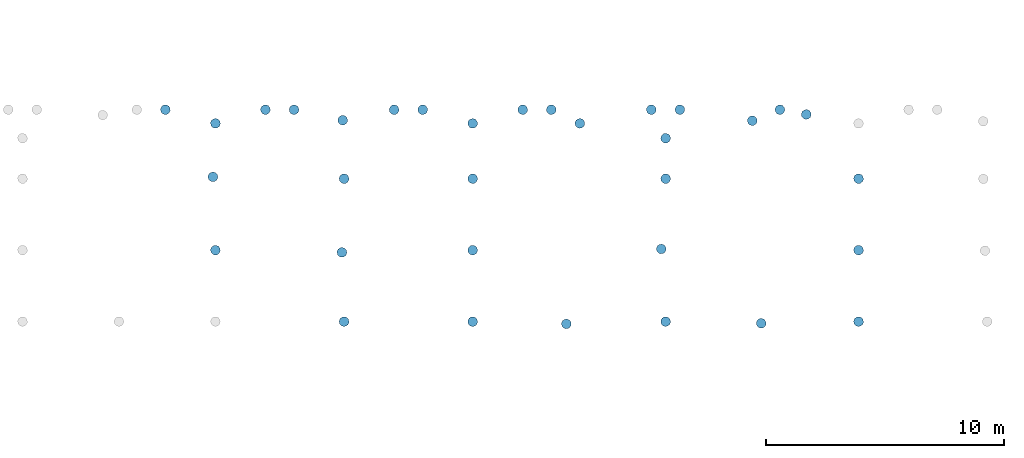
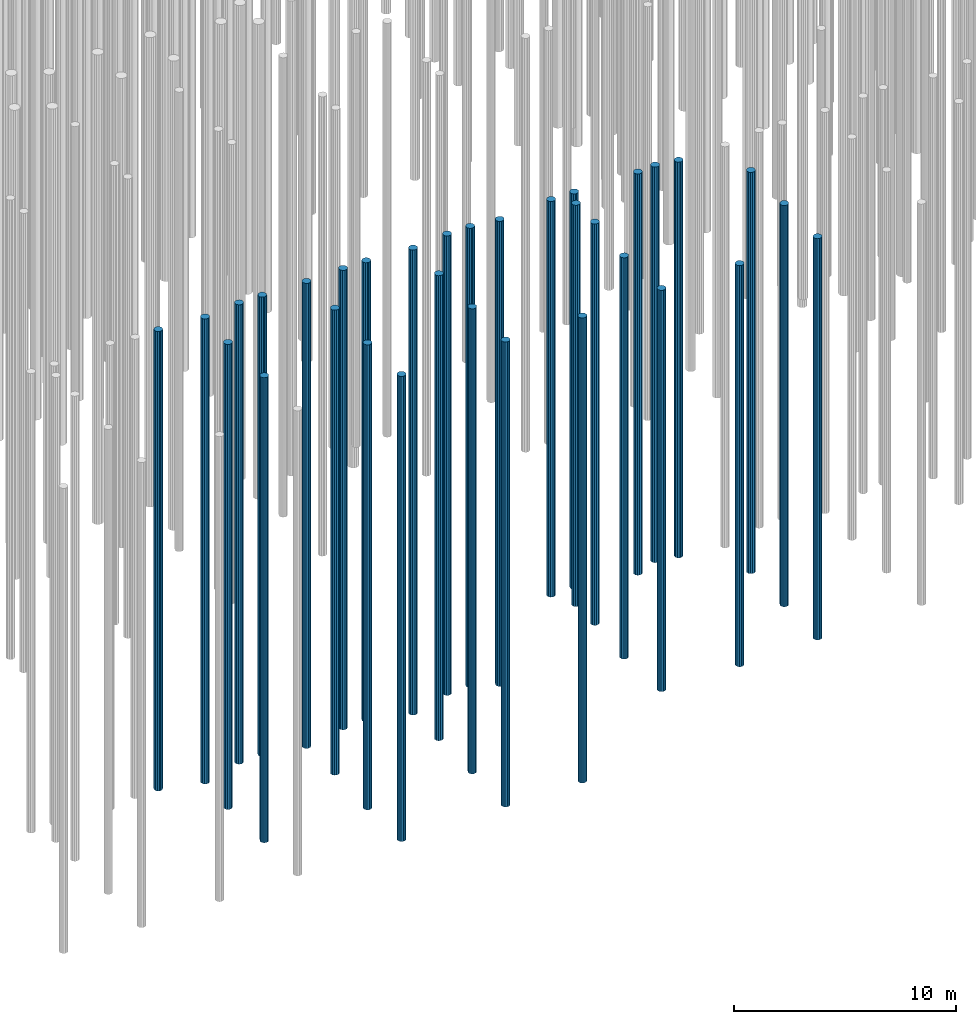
# One storey, part 3 of 20: 33 piles.
"""IFC2X3 building model written with IfcOpenShell, lengths in millimetres."""

from ifc_helpers import new_model, entity, si_unit, converted_unit, derived_unit, direction, frame, origin, place, context, subcontext, project, spatial, polyline, outline, extrude, material, element, save


model = new_model("IFC2X3")

# Units and contexts
model_context = context("Model", 3, precision=0.01, world=origin(), true_north=direction((6.12303176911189e-17, 1.0)))
body_context = subcontext(model_context, "Body", "Model", "MODEL_VIEW")
ifc_project = project(units=[si_unit("LENGTHUNIT", "METRE", prefix="MILLI"), si_unit("AREAUNIT", "SQUARE_METRE"), si_unit("VOLUMEUNIT", "CUBIC_METRE"), converted_unit("PLANEANGLEUNIT", "DEGREE", entity("IfcRatioMeasure", 0.0174532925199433), si_unit("PLANEANGLEUNIT", "RADIAN"), dimensions=[0, 0, 0, 0, 0, 0, 0]), si_unit("MASSUNIT", "GRAM", prefix="KILO"), derived_unit("MASSDENSITYUNIT", [(si_unit("MASSUNIT", "GRAM", prefix="KILO"), 1), (si_unit("LENGTHUNIT", "METRE"), -3)]), si_unit("TIMEUNIT", "SECOND"), si_unit("FREQUENCYUNIT", "HERTZ"), si_unit("THERMODYNAMICTEMPERATUREUNIT", "DEGREE_CELSIUS"), derived_unit("THERMALTRANSMITTANCEUNIT", [(si_unit("MASSUNIT", "GRAM", prefix="KILO"), 1), (si_unit("THERMODYNAMICTEMPERATUREUNIT", "KELVIN"), -1), (si_unit("TIMEUNIT", "SECOND"), -3)]), derived_unit("VOLUMETRICFLOWRATEUNIT", [(si_unit("LENGTHUNIT", "METRE"), 3), (si_unit("TIMEUNIT", "SECOND"), -1)]), si_unit("ELECTRICCURRENTUNIT", "AMPERE"), si_unit("ELECTRICVOLTAGEUNIT", "VOLT"), si_unit("POWERUNIT", "WATT"), si_unit("FORCEUNIT", "NEWTON", prefix="KILO"), si_unit("ILLUMINANCEUNIT", "LUX"), si_unit("LUMINOUSFLUXUNIT", "LUMEN"), si_unit("LUMINOUSINTENSITYUNIT", "CANDELA"), derived_unit("USERDEFINED", [(si_unit("MASSUNIT", "GRAM", prefix="KILO"), -1), (si_unit("LENGTHUNIT", "METRE"), -2), (si_unit("TIMEUNIT", "SECOND"), 3), (si_unit("LUMINOUSFLUXUNIT", "LUMEN"), 1)]), derived_unit("LINEARVELOCITYUNIT", [(si_unit("LENGTHUNIT", "METRE"), 1), (si_unit("TIMEUNIT", "SECOND"), -1)]), si_unit("PRESSUREUNIT", "PASCAL"), derived_unit("USERDEFINED", [(si_unit("LENGTHUNIT", "METRE"), -2), (si_unit("MASSUNIT", "GRAM", prefix="KILO"), 1), (si_unit("TIMEUNIT", "SECOND"), -2)])], contexts=[model_context])

# Site, building, storey
site_placement = place(None, origin())
site = spatial("IfcSite", under=ifc_project, at=site_placement, Name="Default", CompositionType="ELEMENT")
building_placement = place(site_placement, origin())
building = spatial("IfcBuilding", under=site, at=building_placement, Name="niet gebruiken", CompositionType="ELEMENT")
storey_placement = place(building_placement, frame((0.0, 0.0, -4000.0)))
storey = spatial("IfcBuildingStorey", under=building, at=storey_placement, Name="Level t.b.v. palenplan", CompositionType="ELEMENT", Elevation=-4000.0)

# Piles
ifc_material = material(Name="NLRS_f2_beton ihwg")
pile_1_placement = place(storey_placement, origin())
element("IfcPile", 1, at=pile_1_placement, inside=storey, material=ifc_material, Name="NLRS_17.12_SFO_TLB_funderingspaal grondverdringend_gen:Fundex_r410/500", ObjectType="NLRS_17.12_SFO_TLB_funderingspaal grondverdringend_gen:Fundex_r410/500", context=body_context, shape_type="SweptSolid", body=[
    extrude(outline(polyline([(-49.0597111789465, -199.043072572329), (49.0597111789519, -199.043072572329), (135.940144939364, -153.44470337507), (191.678329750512, -72.6940018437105), (203.505319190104, 24.7100194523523), (168.711692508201, 116.453273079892), (95.2682502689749, 181.518485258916), (49.0597111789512, 199.043072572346), (-49.0597111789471, 199.043072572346), (-135.94014493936, 153.444703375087), (-191.678329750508, 72.6940018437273), (-203.5053191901, -24.7100194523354), (-168.711692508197, -116.453273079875), (-95.2682502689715, -181.518485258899), (-49.0597111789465, -199.043072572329)])), frame((40500.0, 300.0, -22600.0), z_axis=(0.0, 0.0, 1.0), x_axis=(0.239315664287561, -0.970941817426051, 0.0)), (0.0, 0.0, 1.0), 25528.0),
])
pile_2_placement = place(storey_placement, origin())
element("IfcPile", 2, at=pile_2_placement, inside=storey, material=ifc_material, Name="NLRS_17.12_SFO_TLB_funderingspaal grondverdringend_gen:Fundex_r410/500", ObjectType="NLRS_17.12_SFO_TLB_funderingspaal grondverdringend_gen:Fundex_r410/500", context=body_context, shape_type="SweptSolid", body=[
    extrude(outline(polyline([(-49.0597111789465, -199.043072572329), (49.0597111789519, -199.043072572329), (135.940144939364, -153.44470337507), (191.678329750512, -72.6940018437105), (203.505319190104, 24.7100194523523), (168.711692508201, 116.453273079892), (95.2682502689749, 181.518485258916), (49.0597111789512, 199.043072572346), (-49.0597111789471, 199.043072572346), (-135.94014493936, 153.444703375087), (-191.678329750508, 72.6940018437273), (-203.5053191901, -24.7100194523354), (-168.711692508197, -116.453273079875), (-95.2682502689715, -181.518485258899), (-49.0597111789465, -199.043072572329)])), frame((45900.0, 300.0, -22600.0), z_axis=(0.0, 0.0, 1.0), x_axis=(0.239315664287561, -0.970941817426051, 0.0)), (0.0, 0.0, 1.0), 25528.0),
])
pile_3_placement = place(storey_placement, origin())
element("IfcPile", 3, at=pile_3_placement, inside=storey, material=ifc_material, Name="NLRS_17.12_SFO_TLB_funderingspaal grondverdringend_gen:Fundex_r410/500", ObjectType="NLRS_17.12_SFO_TLB_funderingspaal grondverdringend_gen:Fundex_r410/500", context=body_context, shape_type="SweptSolid", body=[
    extrude(outline(polyline([(-49.0597111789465, -199.043072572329), (49.0597111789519, -199.043072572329), (135.940144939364, -153.44470337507), (191.678329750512, -72.6940018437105), (203.505319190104, 24.7100194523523), (168.711692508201, 116.453273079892), (95.268250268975, 181.518485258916), (49.0597111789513, 199.043072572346), (-49.0597111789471, 199.043072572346), (-135.94014493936, 153.444703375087), (-191.678329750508, 72.6940018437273), (-203.5053191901, -24.7100194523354), (-168.711692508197, -116.453273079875), (-95.2682502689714, -181.518485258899), (-49.0597111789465, -199.043072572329)])), frame((49833.0599688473, 203.253374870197, -22600.0), z_axis=(0.0, 0.0, 1.0), x_axis=(0.239315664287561, -0.970941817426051, 0.0)), (0.0, 0.0, 1.0), 25528.0),
])
pile_4_placement = place(storey_placement, origin())
element("IfcPile", 4, at=pile_4_placement, inside=storey, material=ifc_material, Name="NLRS_17.12_SFO_TLB_funderingspaal grondverdringend_gen:Fundex_r410/500", ObjectType="NLRS_17.12_SFO_TLB_funderingspaal grondverdringend_gen:Fundex_r410/500", context=body_context, shape_type="SweptSolid", body=[
    extrude(outline(polyline([(-49.0597111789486, -199.043072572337), (49.0597111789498, -199.043072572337), (135.940144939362, -153.444703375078), (191.67832975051, -72.6940018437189), (203.505319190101, 24.7100194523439), (168.711692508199, 116.453273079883), (95.2682502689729, 181.518485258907), (49.0597111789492, 199.043072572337), (-49.0597111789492, 199.043072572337), (-135.940144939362, 153.444703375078), (-191.67832975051, 72.6940018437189), (-203.505319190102, -24.7100194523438), (-168.711692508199, -116.453273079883), (-95.2682502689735, -181.518485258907), (-49.0597111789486, -199.043072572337)])), frame((54000.0, 300.0, -19100.0), z_axis=(0.0, 0.0, 1.0), x_axis=(0.239315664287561, -0.970941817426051, 0.0)), (0.0, 0.0, 1.0), 22028.0),
])
pile_5_placement = place(storey_placement, origin())
element("IfcPile", 5, at=pile_5_placement, inside=storey, material=ifc_material, Name="NLRS_17.12_SFO_TLB_funderingspaal grondverdringend_gen:Fundex_r410/500", ObjectType="NLRS_17.12_SFO_TLB_funderingspaal grondverdringend_gen:Fundex_r410/500", context=body_context, shape_type="SweptSolid", body=[
    extrude(outline(polyline([(-49.0597111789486, -199.043072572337), (49.0597111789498, -199.043072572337), (135.940144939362, -153.444703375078), (191.67832975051, -72.6940018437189), (203.505319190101, 24.7100194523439), (168.711692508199, 116.453273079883), (95.2682502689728, 181.518485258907), (49.0597111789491, 199.043072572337), (-49.0597111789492, 199.043072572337), (-135.940144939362, 153.444703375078), (-191.67832975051, 72.6940018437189), (-203.505319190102, -24.7100194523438), (-168.711692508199, -116.453273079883), (-95.2682502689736, -181.518485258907), (-49.0597111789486, -199.043072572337)])), frame((58011.9148747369, 228.351087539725, -19100.0), z_axis=(0.0, 0.0, 1.0), x_axis=(0.239315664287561, -0.970941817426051, 0.0)), (0.0, 0.0, 1.0), 22028.0),
])
pile_6_placement = place(storey_placement, origin())
element("IfcPile", 6, at=pile_6_placement, inside=storey, material=ifc_material, Name="NLRS_17.12_SFO_TLB_funderingspaal grondverdringend_gen:Fundex_r410/500", ObjectType="NLRS_17.12_SFO_TLB_funderingspaal grondverdringend_gen:Fundex_r410/500", context=body_context, shape_type="SweptSolid", body=[
    extrude(outline(polyline([(-49.0597111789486, -199.043072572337), (49.0597111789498, -199.043072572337), (135.940144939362, -153.444703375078), (191.67832975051, -72.6940018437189), (203.505319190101, 24.7100194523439), (168.711692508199, 116.453273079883), (95.2682502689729, 181.518485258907), (49.0597111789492, 199.043072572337), (-49.0597111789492, 199.043072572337), (-135.940144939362, 153.444703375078), (-191.67832975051, 72.6940018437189), (-203.505319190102, -24.7100194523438), (-168.711692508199, -116.453273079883), (-95.2682502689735, -181.518485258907), (-49.0597111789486, -199.043072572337)])), frame((62100.0, 300.0, -19100.0), z_axis=(0.0, 0.0, 1.0), x_axis=(0.239315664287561, -0.970941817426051, 0.0)), (0.0, 0.0, 1.0), 22028.0),
])
pile_7_placement = place(storey_placement, origin())
element("IfcPile", 7, at=pile_7_placement, inside=storey, material=ifc_material, Name="NLRS_17.12_SFO_TLB_funderingspaal grondverdringend_gen:Fundex_r410/500", ObjectType="NLRS_17.12_SFO_TLB_funderingspaal grondverdringend_gen:Fundex_r410/500", context=body_context, shape_type="SweptSolid", body=[
    extrude(outline(polyline([(-49.0597111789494, -199.043072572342), (49.0597111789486, -199.043072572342), (135.940144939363, -153.444703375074), (191.67832975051, -72.6940018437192), (203.505319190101, 24.7100194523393), (168.711692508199, 116.453273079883), (95.2682502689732, 181.518485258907), (49.0597111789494, 199.043072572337), (-49.059711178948, 199.043072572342), (-135.940144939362, 153.444703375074), (-191.678329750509, 72.694001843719), (-203.505319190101, -24.7100194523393), (-168.7116925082, -116.453273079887), (-95.2682502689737, -181.518485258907), (-49.0597111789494, -199.043072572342)])), frame((35100.0, 3300.0, -22600.0), z_axis=(0.0, 0.0, 1.0), x_axis=(0.239315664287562, -0.970941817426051, 0.0)), (0.0, 0.0, 1.0), 25528.0),
])
pile_8_placement = place(storey_placement, origin())
element("IfcPile", 8, at=pile_8_placement, inside=storey, material=ifc_material, Name="NLRS_17.12_SFO_TLB_funderingspaal grondverdringend_gen:Fundex_r410/500", ObjectType="NLRS_17.12_SFO_TLB_funderingspaal grondverdringend_gen:Fundex_r410/500", context=body_context, shape_type="SweptSolid", body=[
    extrude(outline(polyline([(-49.0597111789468, -199.043072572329), (49.0597111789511, -199.043072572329), (135.940144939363, -153.44470337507), (191.678329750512, -72.6940018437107), (203.505319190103, 24.7100194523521), (168.711692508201, 116.453273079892), (95.2682502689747, 181.518485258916), (49.059711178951, 199.043072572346), (-49.0597111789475, 199.043072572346), (-135.94014493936, 153.444703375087), (-191.678329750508, 72.6940018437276), (-203.5053191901, -24.7100194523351), (-168.711692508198, -116.453273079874), (-95.2682502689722, -181.518485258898), (-49.0597111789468, -199.043072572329)])), frame((40411.6226067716, 3207.38064960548, -22600.0), z_axis=(0.0, 0.0, 1.0), x_axis=(0.239315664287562, -0.970941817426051, 0.0)), (0.0, 0.0, 1.0), 25528.0),
])
pile_9_placement = place(storey_placement, origin())
element("IfcPile", 9, at=pile_9_placement, inside=storey, material=ifc_material, Name="NLRS_17.12_SFO_TLB_funderingspaal grondverdringend_gen:Fundex_r410/500", ObjectType="NLRS_17.12_SFO_TLB_funderingspaal grondverdringend_gen:Fundex_r410/500", context=body_context, shape_type="SweptSolid", body=[
    extrude(outline(polyline([(-49.0597111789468, -199.043072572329), (49.0597111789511, -199.043072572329), (135.940144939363, -153.44470337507), (191.678329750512, -72.6940018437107), (203.505319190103, 24.7100194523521), (168.711692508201, 116.453273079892), (95.2682502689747, 181.518485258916), (49.059711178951, 199.043072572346), (-49.0597111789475, 199.043072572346), (-135.94014493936, 153.444703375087), (-191.678329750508, 72.6940018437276), (-203.5053191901, -24.7100194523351), (-168.711692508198, -116.453273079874), (-95.2682502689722, -181.518485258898), (-49.0597111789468, -199.043072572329)])), frame((45900.0, 3300.0, -22600.0), z_axis=(0.0, 0.0, 1.0), x_axis=(0.239315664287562, -0.970941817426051, 0.0)), (0.0, 0.0, 1.0), 25528.0),
])
pile_10_placement = place(storey_placement, origin())
element("IfcPile", 10, at=pile_10_placement, inside=storey, material=ifc_material, Name="NLRS_17.12_SFO_TLB_funderingspaal grondverdringend_gen:Fundex_r410/500", ObjectType="NLRS_17.12_SFO_TLB_funderingspaal grondverdringend_gen:Fundex_r410/500", context=body_context, shape_type="SweptSolid", body=[
    extrude(outline(polyline([(-49.0597111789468, -199.043072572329), (49.0597111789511, -199.043072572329), (135.940144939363, -153.44470337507), (191.678329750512, -72.6940018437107), (203.505319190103, 24.7100194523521), (168.711692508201, 116.453273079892), (95.2682502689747, 181.518485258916), (49.059711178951, 199.043072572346), (-49.0597111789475, 199.043072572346), (-135.94014493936, 153.444703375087), (-191.678329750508, 72.6940018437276), (-203.5053191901, -24.7100194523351), (-168.711692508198, -116.453273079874), (-95.2682502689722, -181.518485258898), (-49.0597111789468, -199.043072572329)])), frame((53816.9340900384, 3349.68818353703, -19100.0), z_axis=(0.0, 0.0, 1.0), x_axis=(0.239315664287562, -0.970941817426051, 0.0)), (0.0, 0.0, 1.0), 22028.0),
])
pile_11_placement = place(storey_placement, origin())
element("IfcPile", 11, at=pile_11_placement, inside=storey, material=ifc_material, Name="NLRS_17.12_SFO_TLB_funderingspaal grondverdringend_gen:Fundex_r410/500", ObjectType="NLRS_17.12_SFO_TLB_funderingspaal grondverdringend_gen:Fundex_r410/500", context=body_context, shape_type="SweptSolid", body=[
    extrude(outline(polyline([(-49.0597111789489, -199.043072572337), (49.0597111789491, -199.043072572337), (135.940144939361, -153.444703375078), (191.678329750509, -72.6940018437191), (203.505319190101, 24.7100194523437), (168.711692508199, 116.453273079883), (95.2682502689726, 181.518485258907), (49.0597111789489, 199.043072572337), (-49.0597111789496, 199.043072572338), (-135.940144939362, 153.444703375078), (-191.67832975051, 72.6940018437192), (-203.505319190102, -24.7100194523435), (-168.7116925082, -116.453273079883), (-95.2682502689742, -181.518485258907), (-49.0597111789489, -199.043072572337)])), frame((62100.0, 3300.0, -19100.0), z_axis=(0.0, 0.0, 1.0), x_axis=(0.239315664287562, -0.970941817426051, 0.0)), (0.0, 0.0, 1.0), 22028.0),
])
pile_12_placement = place(storey_placement, origin())
element("IfcPile", 12, at=pile_12_placement, inside=storey, material=ifc_material, Name="NLRS_17.12_SFO_TLB_funderingspaal grondverdringend_gen:Fundex_r410/500", ObjectType="NLRS_17.12_SFO_TLB_funderingspaal grondverdringend_gen:Fundex_r410/500", context=body_context, shape_type="SweptSolid", body=[
    extrude(outline(polyline([(-49.0597111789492, -199.043072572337), (49.0597111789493, -199.043072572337), (135.940144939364, -153.44470337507), (191.67832975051, -72.6940018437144), (203.5053191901, 24.7100194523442), (168.711692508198, 116.453273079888), (95.2682502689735, 181.518485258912), (49.0597111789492, 199.043072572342), (-49.0597111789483, 199.043072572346), (-135.940144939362, 153.444703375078), (-191.67832975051, 72.6940018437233), (-203.5053191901, -24.7100194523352), (-168.7116925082, -116.453273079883), (-95.2682502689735, -181.518485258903), (-49.0597111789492, -199.043072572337)])), frame((34994.2892572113, 6374.7398196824, -22600.0), z_axis=(0.0, 0.0, 1.0), x_axis=(0.239315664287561, -0.970941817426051, 0.0)), (0.0, 0.0, 1.0), 25528.0),
])
pile_13_placement = place(storey_placement, origin())
element("IfcPile", 13, at=pile_13_placement, inside=storey, material=ifc_material, Name="NLRS_17.12_SFO_TLB_funderingspaal grondverdringend_gen:Fundex_r410/500", ObjectType="NLRS_17.12_SFO_TLB_funderingspaal grondverdringend_gen:Fundex_r410/500", context=body_context, shape_type="SweptSolid", body=[
    extrude(outline(polyline([(-49.0597111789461, -199.043072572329), (49.0597111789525, -199.043072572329), (135.940144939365, -153.44470337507), (191.678329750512, -72.6940018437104), (203.505319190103, 24.7100194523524), (168.7116925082, 116.453273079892), (95.2682502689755, 181.518485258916), (49.0597111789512, 199.043072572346), (-49.0597111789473, 199.043072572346), (-135.940144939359, 153.444703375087), (-191.678329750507, 72.6940018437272), (-203.505319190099, -24.7100194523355), (-168.711692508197, -116.453273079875), (-95.2682502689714, -181.518485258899), (-49.0597111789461, -199.043072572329)])), frame((40500.0, 6300.0, -22600.0), z_axis=(0.0, 0.0, 1.0), x_axis=(0.239315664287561, -0.970941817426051, 0.0)), (0.0, 0.0, 1.0), 25528.0),
])
pile_14_placement = place(storey_placement, origin())
element("IfcPile", 14, at=pile_14_placement, inside=storey, material=ifc_material, Name="NLRS_17.12_SFO_TLB_funderingspaal grondverdringend_gen:Fundex_r410/500", ObjectType="NLRS_17.12_SFO_TLB_funderingspaal grondverdringend_gen:Fundex_r410/500", context=body_context, shape_type="SweptSolid", body=[
    extrude(outline(polyline([(-49.0597111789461, -199.043072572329), (49.0597111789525, -199.043072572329), (135.940144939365, -153.44470337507), (191.678329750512, -72.6940018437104), (203.505319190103, 24.7100194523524), (168.7116925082, 116.453273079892), (95.2682502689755, 181.518485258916), (49.0597111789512, 199.043072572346), (-49.0597111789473, 199.043072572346), (-135.940144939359, 153.444703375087), (-191.678329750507, 72.6940018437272), (-203.505319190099, -24.7100194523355), (-168.711692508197, -116.453273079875), (-95.2682502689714, -181.518485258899), (-49.0597111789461, -199.043072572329)])), frame((45900.0, 6300.0, -22600.0), z_axis=(0.0, 0.0, 1.0), x_axis=(0.239315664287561, -0.970941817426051, 0.0)), (0.0, 0.0, 1.0), 25528.0),
])
pile_15_placement = place(storey_placement, origin())
element("IfcPile", 15, at=pile_15_placement, inside=storey, material=ifc_material, Name="NLRS_17.12_SFO_TLB_funderingspaal grondverdringend_gen:Fundex_r410/500", ObjectType="NLRS_17.12_SFO_TLB_funderingspaal grondverdringend_gen:Fundex_r410/500", context=body_context, shape_type="SweptSolid", body=[
    extrude(outline(polyline([(-49.0597111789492, -199.043072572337), (49.0597111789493, -199.043072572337), (135.940144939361, -153.444703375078), (191.678329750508, -72.6940018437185), (203.5053191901, 24.7100194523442), (168.711692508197, 116.453273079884), (95.2682502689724, 181.518485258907), (49.0597111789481, 199.043072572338), (-49.0597111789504, 199.043072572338), (-135.940144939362, 153.444703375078), (-191.678329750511, 72.6940018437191), (-203.505319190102, -24.7100194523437), (-168.7116925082, -116.453273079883), (-95.2682502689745, -181.518485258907), (-49.0597111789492, -199.043072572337)])), frame((54000.0, 6300.0, -19100.0), z_axis=(0.0, 0.0, 1.0), x_axis=(0.239315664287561, -0.970941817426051, 0.0)), (0.0, 0.0, 1.0), 22028.0),
])
pile_16_placement = place(storey_placement, origin())
element("IfcPile", 16, at=pile_16_placement, inside=storey, material=ifc_material, Name="NLRS_17.12_SFO_TLB_funderingspaal grondverdringend_gen:Fundex_r410/500", ObjectType="NLRS_17.12_SFO_TLB_funderingspaal grondverdringend_gen:Fundex_r410/500", context=body_context, shape_type="SweptSolid", body=[
    extrude(outline(polyline([(-49.0597111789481, -199.043072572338), (49.0597111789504, -199.043072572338), (135.940144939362, -153.444703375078), (191.67832975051, -72.6940018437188), (203.505319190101, 24.7100194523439), (168.711692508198, 116.453273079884), (95.2682502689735, 181.518485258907), (49.0597111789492, 199.043072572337), (-49.0597111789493, 199.043072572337), (-135.940144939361, 153.444703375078), (-191.67832975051, 72.6940018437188), (-203.505319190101, -24.7100194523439), (-168.711692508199, -116.453273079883), (-95.2682502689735, -181.518485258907), (-49.0597111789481, -199.043072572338)])), frame((62100.0, 6300.0, -19100.0), z_axis=(0.0, 0.0, 1.0), x_axis=(0.239315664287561, -0.970941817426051, 0.0)), (0.0, 0.0, 1.0), 22028.0),
])
pile_17_placement = place(storey_placement, origin())
element("IfcPile", 17, at=pile_17_placement, inside=storey, material=ifc_material, Name="NLRS_17.12_SFO_TLB_funderingspaal grondverdringend_gen:Fundex_r410/500", ObjectType="NLRS_17.12_SFO_TLB_funderingspaal grondverdringend_gen:Fundex_r410/500", context=body_context, shape_type="SweptSolid", body=[
    extrude(outline(polyline([(-49.0597111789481, -199.043072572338), (49.0597111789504, -199.043072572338), (135.940144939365, -153.44470337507), (191.678329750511, -72.6940018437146), (203.505319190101, 24.7100194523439), (168.711692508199, 116.453273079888), (95.2682502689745, 181.518485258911), (49.0597111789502, 199.043072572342), (-49.0597111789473, 199.043072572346), (-135.940144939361, 153.444703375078), (-191.678329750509, 72.694001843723), (-203.505319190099, -24.7100194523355), (-168.711692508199, -116.453273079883), (-95.2682502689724, -181.518485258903), (-49.0597111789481, -199.043072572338)])), frame((35100.0, 8621.0, -22600.0), z_axis=(0.0, 0.0, 1.0), x_axis=(0.239315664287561, -0.970941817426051, 0.0)), (0.0, 0.0, 1.0), 25528.0),
])
pile_18_placement = place(storey_placement, origin())
element("IfcPile", 18, at=pile_18_placement, inside=storey, material=ifc_material, Name="NLRS_17.12_SFO_TLB_funderingspaal grondverdringend_gen:Fundex_r410/500", ObjectType="NLRS_17.12_SFO_TLB_funderingspaal grondverdringend_gen:Fundex_r410/500", context=body_context, shape_type="SweptSolid", body=[
    extrude(outline(polyline([(-49.0597111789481, -199.043072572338), (49.0597111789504, -199.043072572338), (135.940144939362, -153.444703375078), (191.67832975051, -72.6940018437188), (203.505319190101, 24.7100194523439), (168.711692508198, 116.453273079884), (95.2682502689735, 181.518485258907), (49.0597111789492, 199.043072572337), (-49.0597111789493, 199.043072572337), (-135.940144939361, 153.444703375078), (-191.67832975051, 72.6940018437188), (-203.505319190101, -24.7100194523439), (-168.711692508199, -116.453273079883), (-95.2682502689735, -181.518485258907), (-49.0597111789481, -199.043072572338)])), frame((40443.3946027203, 8755.24444515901, -22600.0), z_axis=(0.0, 0.0, 1.0), x_axis=(0.239315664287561, -0.970941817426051, 0.0)), (0.0, 0.0, 1.0), 25528.0),
])
pile_19_placement = place(storey_placement, origin())
element("IfcPile", 19, at=pile_19_placement, inside=storey, material=ifc_material, Name="NLRS_17.12_SFO_TLB_funderingspaal grondverdringend_gen:Fundex_r410/500", ObjectType="NLRS_17.12_SFO_TLB_funderingspaal grondverdringend_gen:Fundex_r410/500", context=body_context, shape_type="SweptSolid", body=[
    extrude(outline(polyline([(-49.0597111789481, -199.043072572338), (49.0597111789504, -199.043072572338), (135.940144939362, -153.444703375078), (191.67832975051, -72.6940018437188), (203.505319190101, 24.7100194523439), (168.711692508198, 116.453273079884), (95.2682502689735, 181.518485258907), (49.0597111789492, 199.043072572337), (-49.0597111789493, 199.043072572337), (-135.940144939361, 153.444703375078), (-191.67832975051, 72.6940018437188), (-203.505319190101, -24.7100194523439), (-168.711692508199, -116.453273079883), (-95.2682502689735, -181.518485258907), (-49.0597111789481, -199.043072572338)])), frame((45900.0, 8621.0, -22600.0), z_axis=(0.0, 0.0, 1.0), x_axis=(0.239315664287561, -0.970941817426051, 0.0)), (0.0, 0.0, 1.0), 25528.0),
])
pile_20_placement = place(storey_placement, origin())
element("IfcPile", 20, at=pile_20_placement, inside=storey, material=ifc_material, Name="NLRS_17.12_SFO_TLB_funderingspaal grondverdringend_gen:Fundex_r410/500", ObjectType="NLRS_17.12_SFO_TLB_funderingspaal grondverdringend_gen:Fundex_r410/500", context=body_context, shape_type="SweptSolid", body=[
    extrude(outline(polyline([(-49.0597111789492, -199.043072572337), (49.0597111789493, -199.043072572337), (135.940144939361, -153.444703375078), (191.678329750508, -72.6940018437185), (203.5053191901, 24.7100194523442), (168.711692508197, 116.453273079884), (95.2682502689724, 181.518485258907), (49.0597111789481, 199.043072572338), (-49.0597111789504, 199.043072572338), (-135.940144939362, 153.444703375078), (-191.678329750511, 72.6940018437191), (-203.505319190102, -24.7100194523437), (-168.7116925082, -116.453273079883), (-95.2682502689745, -181.518485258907), (-49.0597111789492, -199.043072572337)])), frame((54000.0, 8000.0, -19100.0), z_axis=(0.0, 0.0, 1.0), x_axis=(0.239315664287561, -0.970941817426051, 0.0)), (0.0, 0.0, 1.0), 22028.0),
])
pile_21_placement = place(storey_placement, origin())
element("IfcPile", 21, at=pile_21_placement, inside=storey, material=ifc_material, Name="NLRS_17.12_SFO_TLB_funderingspaal grondverdringend_gen:Fundex_r410/500", ObjectType="NLRS_17.12_SFO_TLB_funderingspaal grondverdringend_gen:Fundex_r410/500", context=body_context, shape_type="SweptSolid", body=[
    extrude(outline(polyline([(-49.0597111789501, -199.04307257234), (49.0597111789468, -199.04307257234), (135.94014493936, -153.444703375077), (191.67832975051, -72.6940018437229), (203.5053191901, 24.7100194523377), (168.7116925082, 116.453273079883), (95.2682502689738, 181.518485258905), (49.059711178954, 199.043072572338), (-49.0597111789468, 199.04307257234), (-135.94014493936, 153.444703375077), (-191.67832975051, 72.6940018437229), (-203.5053191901, -24.7100194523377), (-168.7116925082, -116.453273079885), (-95.2682502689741, -181.518485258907), (-49.0597111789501, -199.04307257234)])), frame((33000.0, 9196.0, -22600.0), z_axis=(0.0, 0.0, 1.0), x_axis=(-0.970941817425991, -0.239315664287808, 0.0)), (0.0, 0.0, 1.0), 25220.0),
])
pile_22_placement = place(storey_placement, origin())
element("IfcPile", 22, at=pile_22_placement, inside=storey, material=ifc_material, Name="NLRS_17.12_SFO_TLB_funderingspaal grondverdringend_gen:Fundex_r410/500", ObjectType="NLRS_17.12_SFO_TLB_funderingspaal grondverdringend_gen:Fundex_r410/500", context=body_context, shape_type="SweptSolid", body=[
    extrude(outline(polyline([(-49.0597111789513, -199.043072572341), (49.0597111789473, -199.043072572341), (135.940144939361, -153.444703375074), (191.678329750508, -72.6940018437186), (203.505319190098, 24.7100194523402), (168.711692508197, 116.453273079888), (95.2682502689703, 181.518485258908), (49.0597111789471, 199.043072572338), (-49.0597111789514, 199.043072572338), (-135.940144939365, 153.444703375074), (-191.678329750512, 72.6940018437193), (-203.505319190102, -24.7100194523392), (-168.711692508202, -116.453273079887), (-95.2682502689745, -181.518485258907), (-49.0597111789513, -199.043072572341)])), frame((37200.0, 9196.0, -22600.0), z_axis=(0.0, 0.0, 1.0), x_axis=(0.239315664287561, -0.970941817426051, 0.0)), (0.0, 0.0, 1.0), 25220.0),
])
pile_23_placement = place(storey_placement, origin())
element("IfcPile", 23, at=pile_23_placement, inside=storey, material=ifc_material, Name="NLRS_17.12_SFO_TLB_funderingspaal grondverdringend_gen:Fundex_r410/500", ObjectType="NLRS_17.12_SFO_TLB_funderingspaal grondverdringend_gen:Fundex_r410/500", context=body_context, shape_type="SweptSolid", body=[
    extrude(outline(polyline([(-49.0597111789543, -199.043072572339), (49.0597111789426, -199.043072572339), (135.940144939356, -153.444703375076), (191.678329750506, -72.6940018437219), (203.505319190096, 24.7100194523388), (168.711692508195, 116.453273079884), (95.2682502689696, 181.518485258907), (49.0597111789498, 199.043072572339), (-49.059711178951, 199.043072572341), (-135.940144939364, 153.444703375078), (-191.678329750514, 72.694001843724), (-203.505319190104, -24.7100194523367), (-168.711692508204, -116.453273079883), (-95.2682502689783, -181.518485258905), (-49.0597111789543, -199.043072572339)])), frame((38400.0, 9196.0, -22600.0), z_axis=(0.0, 0.0, 1.0), x_axis=(-0.970941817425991, -0.239315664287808, 0.0)), (0.0, 0.0, 1.0), 25220.0),
])
pile_24_placement = place(storey_placement, origin())
element("IfcPile", 24, at=pile_24_placement, inside=storey, material=ifc_material, Name="NLRS_17.12_SFO_TLB_funderingspaal grondverdringend_gen:Fundex_r410/500", ObjectType="NLRS_17.12_SFO_TLB_funderingspaal grondverdringend_gen:Fundex_r410/500", context=body_context, shape_type="SweptSolid", body=[
    extrude(outline(polyline([(-49.0597111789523, -199.043072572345), (49.0597111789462, -199.043072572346), (135.940144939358, -153.444703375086), (191.678329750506, -72.6940018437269), (203.505319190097, 24.7100194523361), (168.711692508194, 116.453273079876), (95.2682502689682, 181.5184852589), (49.059711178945, 199.043072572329), (-49.0597111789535, 199.043072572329), (-135.940144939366, 153.44470337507), (-191.678329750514, 72.6940018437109), (-203.505319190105, -24.7100194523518), (-168.711692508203, -116.453273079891), (-95.2682502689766, -181.518485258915), (-49.0597111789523, -199.043072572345)])), frame((48000.0, 9196.0, -22600.0), z_axis=(0.0, 0.0, 1.0), x_axis=(0.239315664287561, -0.970941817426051, 0.0)), (0.0, 0.0, 1.0), 25220.0),
])
pile_25_placement = place(storey_placement, origin())
element("IfcPile", 25, at=pile_25_placement, inside=storey, material=ifc_material, Name="NLRS_17.12_SFO_TLB_funderingspaal grondverdringend_gen:Fundex_r410/500", ObjectType="NLRS_17.12_SFO_TLB_funderingspaal grondverdringend_gen:Fundex_r410/500", context=body_context, shape_type="SweptSolid", body=[
    extrude(outline(polyline([(-49.0597111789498, -199.043072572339), (49.059711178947, -199.043072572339), (135.94014493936, -153.444703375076), (191.678329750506, -72.6940018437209), (203.505319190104, 24.7100194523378), (168.7116925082, 116.453273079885), (95.2682502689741, 181.518485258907), (49.0597111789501, 199.04307257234), (-49.0597111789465, 199.043072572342), (-135.94014493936, 153.444703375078), (-191.678329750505, 72.694001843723), (-203.505319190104, -24.7100194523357), (-168.7116925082, -116.453273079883), (-95.2682502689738, -181.518485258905), (-49.0597111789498, -199.043072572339)])), frame((49200.0, 9196.0, -22600.0), z_axis=(0.0, 0.0, 1.0), x_axis=(-0.970941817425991, -0.239315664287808, 0.0)), (0.0, 0.0, 1.0), 25220.0),
])
pile_26_placement = place(storey_placement, origin())
element("IfcPile", 26, at=pile_26_placement, inside=storey, material=ifc_material, Name="NLRS_17.12_SFO_TLB_funderingspaal grondverdringend_gen:Fundex_r410/500", ObjectType="NLRS_17.12_SFO_TLB_funderingspaal grondverdringend_gen:Fundex_r410/500", context=body_context, shape_type="SweptSolid", body=[
    extrude(outline(polyline([(-49.0597111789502, -199.043072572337), (49.0597111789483, -199.043072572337), (135.94014493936, -153.444703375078), (191.678329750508, -72.6940018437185), (203.505319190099, 24.7100194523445), (168.711692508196, 116.453273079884), (95.2682502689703, 181.518485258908), (49.0597111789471, 199.043072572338), (-49.0597111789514, 199.043072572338), (-135.940144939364, 153.444703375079), (-191.678329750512, 72.6940018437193), (-203.505319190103, -24.7100194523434), (-168.7116925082, -116.453273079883), (-95.2682502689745, -181.518485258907), (-49.0597111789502, -199.043072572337)])), frame((53400.0, 9196.0, -19100.0), z_axis=(0.0, 0.0, 1.0), x_axis=(0.239315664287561, -0.970941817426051, 0.0)), (0.0, 0.0, 1.0), 21720.0),
])
pile_27_placement = place(storey_placement, origin())
element("IfcPile", 27, at=pile_27_placement, inside=storey, material=ifc_material, Name="NLRS_17.12_SFO_TLB_funderingspaal grondverdringend_gen:Fundex_r410/500", ObjectType="NLRS_17.12_SFO_TLB_funderingspaal grondverdringend_gen:Fundex_r410/500", context=body_context, shape_type="SweptSolid", body=[
    extrude(outline(polyline([(-49.0597111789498, -199.043072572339), (49.059711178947, -199.043072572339), (135.94014493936, -153.444703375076), (191.678329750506, -72.6940018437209), (203.505319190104, 24.7100194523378), (168.7116925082, 116.453273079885), (95.2682502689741, 181.518485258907), (49.0597111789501, 199.04307257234), (-49.0597111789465, 199.043072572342), (-135.94014493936, 153.444703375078), (-191.678329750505, 72.694001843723), (-203.505319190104, -24.7100194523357), (-168.7116925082, -116.453273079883), (-95.2682502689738, -181.518485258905), (-49.0597111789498, -199.043072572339)])), frame((54600.0, 9196.0, -19100.0), z_axis=(0.0, 0.0, 1.0), x_axis=(-0.970941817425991, -0.239315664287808, 0.0)), (0.0, 0.0, 1.0), 21720.0),
])
pile_28_placement = place(storey_placement, origin())
element("IfcPile", 28, at=pile_28_placement, inside=storey, material=ifc_material, Name="NLRS_17.12_SFO_TLB_funderingspaal grondverdringend_gen:Fundex_r410/500", ObjectType="NLRS_17.12_SFO_TLB_funderingspaal grondverdringend_gen:Fundex_r410/500", context=body_context, shape_type="SweptSolid", body=[
    extrude(outline(polyline([(-49.0597111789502, -199.043072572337), (49.0597111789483, -199.043072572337), (135.94014493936, -153.444703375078), (191.678329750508, -72.6940018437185), (203.505319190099, 24.7100194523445), (168.711692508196, 116.453273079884), (95.2682502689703, 181.518485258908), (49.0597111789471, 199.043072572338), (-49.0597111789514, 199.043072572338), (-135.940144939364, 153.444703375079), (-191.678329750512, 72.6940018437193), (-203.505319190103, -24.7100194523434), (-168.7116925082, -116.453273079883), (-95.2682502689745, -181.518485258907), (-49.0597111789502, -199.043072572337)])), frame((58800.0, 9196.0, -19100.0), z_axis=(0.0, 0.0, 1.0), x_axis=(0.239315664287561, -0.970941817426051, 0.0)), (0.0, 0.0, 1.0), 21720.0),
])
pile_29_placement = place(storey_placement, origin())
element("IfcPile", 29, at=pile_29_placement, inside=storey, material=ifc_material, Name="NLRS_17.12_SFO_TLB_funderingspaal grondverdringend_gen:Fundex_r410/500", ObjectType="NLRS_17.12_SFO_TLB_funderingspaal grondverdringend_gen:Fundex_r410/500", context=body_context, shape_type="SweptSolid", body=[
    extrude(outline(polyline([(-49.0597111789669, -199.043072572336), (49.0597111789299, -199.043072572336), (135.940144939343, -153.444703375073), (191.678329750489, -72.6940018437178), (203.505319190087, 24.7100194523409), (168.711692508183, 116.453273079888), (95.268250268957, 181.51848525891), (49.059711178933, 199.043072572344), (-49.0597111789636, 199.043072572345), (-135.940144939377, 153.444703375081), (-191.678329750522, 72.6940018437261), (-203.505319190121, -24.7100194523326), (-168.711692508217, -116.45327307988), (-95.2682502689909, -181.518485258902), (-49.0597111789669, -199.043072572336)])), frame((59905.39586657, 8996.91759729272, -19100.0), z_axis=(0.0, 0.0, 1.0), x_axis=(-0.970941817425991, -0.239315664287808, 0.0)), (0.0, 0.0, 1.0), 21720.0),
])
pile_30_placement = place(storey_placement, origin())
element("IfcPile", 30, at=pile_30_placement, inside=storey, material=ifc_material, Name="NLRS_17.12_SFO_TLB_funderingspaal grondverdringend_gen:Fundex_r410/500", ObjectType="NLRS_17.12_SFO_TLB_funderingspaal grondverdringend_gen:Fundex_r410/500", context=body_context, shape_type="SweptSolid", body=[
    extrude(outline(polyline([(-49.0597111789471, -199.043072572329), (49.0597111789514, -199.043072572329), (135.940144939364, -153.44470337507), (191.678329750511, -72.6940018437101), (203.505319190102, 24.7100194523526), (168.711692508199, 116.453273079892), (95.2682502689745, 181.518485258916), (49.0597111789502, 199.043072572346), (-49.0597111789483, 199.043072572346), (-135.94014493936, 153.444703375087), (-191.678329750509, 72.6940018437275), (-203.5053191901, -24.7100194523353), (-168.711692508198, -116.453273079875), (-95.2682502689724, -181.518485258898), (-49.0597111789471, -199.043072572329)])), frame((50400.0, 8621.0, -22600.0), z_axis=(0.0, 0.0, 1.0), x_axis=(0.239315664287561, -0.970941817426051, 0.0)), (0.0, 0.0, 1.0), 25528.0),
])
pile_31_placement = place(storey_placement, origin())
element("IfcPile", 31, at=pile_31_placement, inside=storey, material=ifc_material, Name="NLRS_17.12_SFO_TLB_funderingspaal grondverdringend_gen:Fundex_r410/500", ObjectType="NLRS_17.12_SFO_TLB_funderingspaal grondverdringend_gen:Fundex_r410/500", context=body_context, shape_type="SweptSolid", body=[
    extrude(outline(polyline([(-49.0597111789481, -199.043072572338), (49.0597111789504, -199.043072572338), (135.940144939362, -153.444703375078), (191.67832975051, -72.6940018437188), (203.505319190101, 24.7100194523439), (168.711692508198, 116.453273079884), (95.2682502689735, 181.518485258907), (49.0597111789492, 199.043072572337), (-49.0597111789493, 199.043072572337), (-135.940144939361, 153.444703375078), (-191.67832975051, 72.6940018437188), (-203.505319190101, -24.7100194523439), (-168.711692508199, -116.453273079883), (-95.2682502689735, -181.518485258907), (-49.0597111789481, -199.043072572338)])), frame((57638.1557017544, 8734.98903508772, -19100.0), z_axis=(0.0, 0.0, 1.0), x_axis=(0.239315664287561, -0.970941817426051, 0.0)), (0.0, 0.0, 1.0), 22028.0),
])
pile_32_placement = place(storey_placement, origin())
element("IfcPile", 32, at=pile_32_placement, inside=storey, material=ifc_material, Name="NLRS_17.12_SFO_TLB_funderingspaal grondverdringend_gen:Fundex_r410/500", ObjectType="NLRS_17.12_SFO_TLB_funderingspaal grondverdringend_gen:Fundex_r410/500", context=body_context, shape_type="SweptSolid", body=[
    extrude(outline(polyline([(-49.0597111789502, -199.043072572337), (49.0597111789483, -199.043072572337), (135.94014493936, -153.444703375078), (191.678329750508, -72.6940018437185), (203.505319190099, 24.7100194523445), (168.711692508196, 116.453273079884), (95.2682502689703, 181.518485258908), (49.0597111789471, 199.043072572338), (-49.0597111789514, 199.043072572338), (-135.940144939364, 153.444703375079), (-191.678329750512, 72.6940018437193), (-203.505319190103, -24.7100194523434), (-168.7116925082, -116.453273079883), (-95.2682502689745, -181.518485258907), (-49.0597111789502, -199.043072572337)])), frame((42600.0, 9196.0, -22600.0), z_axis=(0.0, 0.0, 1.0), x_axis=(0.239315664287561, -0.970941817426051, 0.0)), (0.0, 0.0, 1.0), 25220.0),
])
pile_33_placement = place(storey_placement, origin())
element("IfcPile", 33, at=pile_33_placement, inside=storey, material=ifc_material, Name="NLRS_17.12_SFO_TLB_funderingspaal grondverdringend_gen:Fundex_r410/500", ObjectType="NLRS_17.12_SFO_TLB_funderingspaal grondverdringend_gen:Fundex_r410/500", context=body_context, shape_type="SweptSolid", body=[
    extrude(outline(polyline([(-49.0597111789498, -199.043072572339), (49.059711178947, -199.043072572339), (135.94014493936, -153.444703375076), (191.678329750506, -72.6940018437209), (203.505319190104, 24.7100194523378), (168.7116925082, 116.453273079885), (95.2682502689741, 181.518485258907), (49.0597111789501, 199.04307257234), (-49.0597111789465, 199.043072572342), (-135.94014493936, 153.444703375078), (-191.678329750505, 72.694001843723), (-203.505319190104, -24.7100194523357), (-168.7116925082, -116.453273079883), (-95.2682502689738, -181.518485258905), (-49.0597111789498, -199.043072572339)])), frame((43800.0, 9196.0, -22600.0), z_axis=(0.0, 0.0, 1.0), x_axis=(-0.970941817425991, -0.239315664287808, 0.0)), (0.0, 0.0, 1.0), 25220.0),
])

save(model, "model.ifc")
